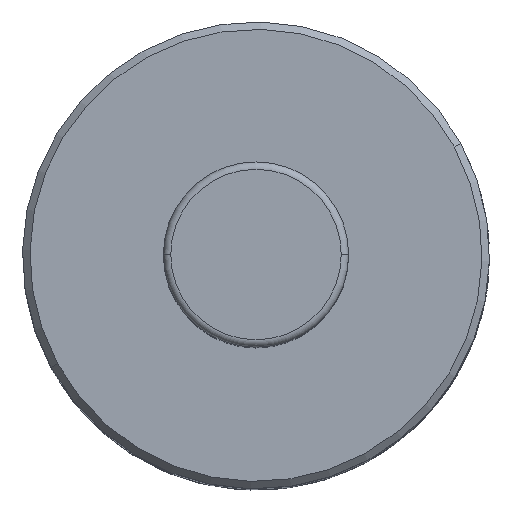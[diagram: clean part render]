
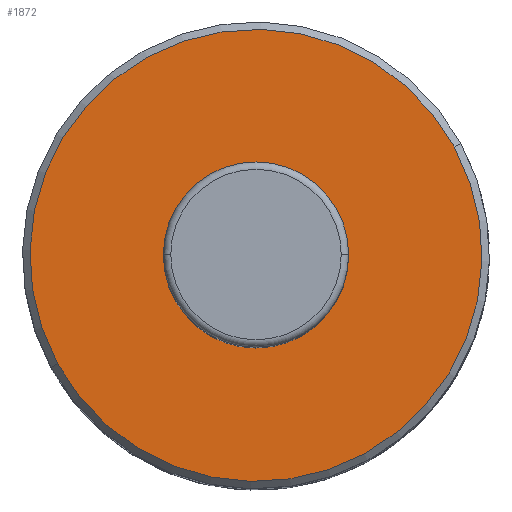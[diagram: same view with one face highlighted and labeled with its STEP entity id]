
A CAD part, top view. The second image highlights one B-rep face of the part: STEP entity #1872.
In plain terms, the highlighted planar face has unit normal (0, 0, 1).
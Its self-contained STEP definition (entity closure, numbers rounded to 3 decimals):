
#1827 = VERTEX_POINT('',#1828);
#1828 = CARTESIAN_POINT('',(-26.766,-14.622,106.));
#1834 = EDGE_CURVE('',#1827,#1835,#1837,.T.);
#1835 = VERTEX_POINT('',#1836);
#1836 = CARTESIAN_POINT('',(26.766,14.622,106.));
#1837 = CIRCLE('',#1838,30.5);
#1838 = AXIS2_PLACEMENT_3D('',#1839,#1840,#1841);
#1839 = CARTESIAN_POINT('',(0.,0.,106.));
#1840 = DIRECTION('',(0.,0.,-1.));
#1841 = DIRECTION('',(-1.,0.,0.));
#1859 = EDGE_CURVE('',#1835,#1827,#1860,.T.);
#1860 = CIRCLE('',#1861,30.5);
#1861 = AXIS2_PLACEMENT_3D('',#1862,#1863,#1864);
#1862 = CARTESIAN_POINT('',(0.,0.,106.));
#1863 = DIRECTION('',(0.,0.,-1.));
#1864 = DIRECTION('',(-1.,0.,0.));
#1872 = ADVANCED_FACE('',(#1873,#1877),#1897,.T.);
#1873 = FACE_BOUND('',#1874,.T.);
#1874 = EDGE_LOOP('',(#1875,#1876));
#1875 = ORIENTED_EDGE('',*,*,#1859,.F.);
#1876 = ORIENTED_EDGE('',*,*,#1834,.F.);
#1877 = FACE_BOUND('',#1878,.T.);
#1878 = EDGE_LOOP('',(#1879,#1890));
#1879 = ORIENTED_EDGE('',*,*,#1880,.F.);
#1880 = EDGE_CURVE('',#1881,#1883,#1885,.T.);
#1881 = VERTEX_POINT('',#1882);
#1882 = CARTESIAN_POINT('',(12.5,0.,106.));
#1883 = VERTEX_POINT('',#1884);
#1884 = CARTESIAN_POINT('',(-12.5,0.,106.));
#1885 = CIRCLE('',#1886,12.5);
#1886 = AXIS2_PLACEMENT_3D('',#1887,#1888,#1889);
#1887 = CARTESIAN_POINT('',(0.,0.,106.));
#1888 = DIRECTION('',(0.,0.,1.));
#1889 = DIRECTION('',(1.,0.,0.));
#1890 = ORIENTED_EDGE('',*,*,#1891,.F.);
#1891 = EDGE_CURVE('',#1883,#1881,#1892,.T.);
#1892 = CIRCLE('',#1893,12.5);
#1893 = AXIS2_PLACEMENT_3D('',#1894,#1895,#1896);
#1894 = CARTESIAN_POINT('',(0.,0.,106.));
#1895 = DIRECTION('',(0.,0.,1.));
#1896 = DIRECTION('',(1.,0.,0.));
#1897 = PLANE('',#1898);
#1898 = AXIS2_PLACEMENT_3D('',#1899,#1900,#1901);
#1899 = CARTESIAN_POINT('',(30.5,0.,106.));
#1900 = DIRECTION('',(0.,0.,1.));
#1901 = DIRECTION('',(1.,0.,0.));
